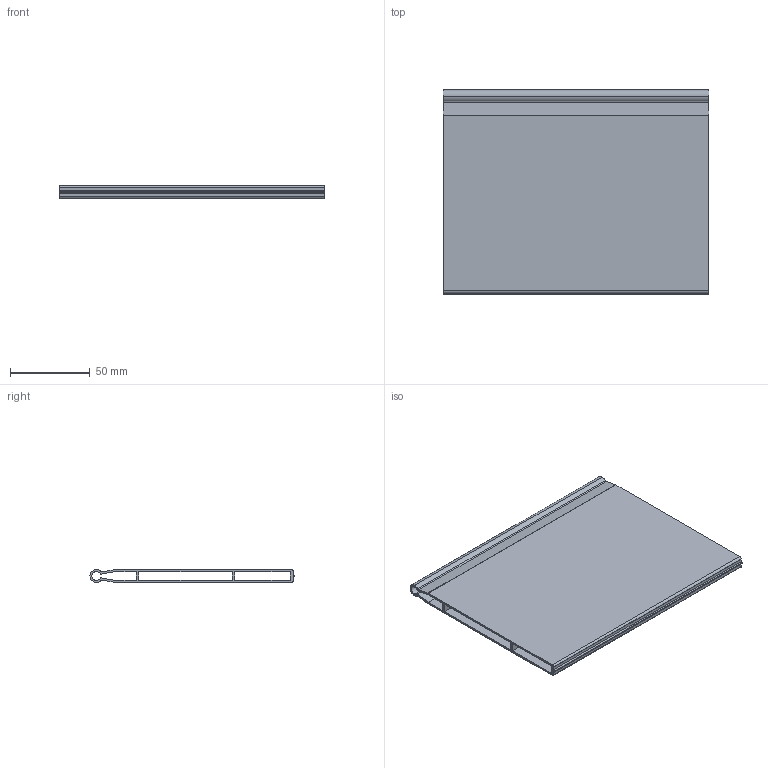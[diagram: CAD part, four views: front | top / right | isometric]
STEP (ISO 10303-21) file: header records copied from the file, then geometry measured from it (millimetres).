
FILE_DESCRIPTION (( 'STEP AP214' ), '1' );
FILE_NAME ('_Magic Optima Unterteilungsprofil DWD XP KAB 300.step', '2010-08-17T12:26:34', ( 'grass' ), ( '' ), 'SwSTEP 2.0', 'SolidWorks 2010', '' );
FILE_SCHEMA (( 'AUTOMOTIVE_DESIGN' ));
Length unit declared in the file: millimetre
Products named in the file (1): _Magic Optima Unterteilungsprofil DWD XP  KAB 300
Bounding box: 166 x 127.7 x 8.1 mm (x, y, z)
Volume: 58186.9 mm3; surface area: 90706 mm2
Topology: 1 solids, 1 shells, 39 faces, 111 edges, 74 vertices
Faces by surface type: plane 22, cylinder 17
Entity records: 1325 total; most frequent: CARTESIAN_POINT 225, DIRECTION 225, ORIENTED_EDGE 222, EDGE_CURVE 111, VECTOR 77, LINE 77, VERTEX_POINT 74, AXIS2_PLACEMENT_3D 74
